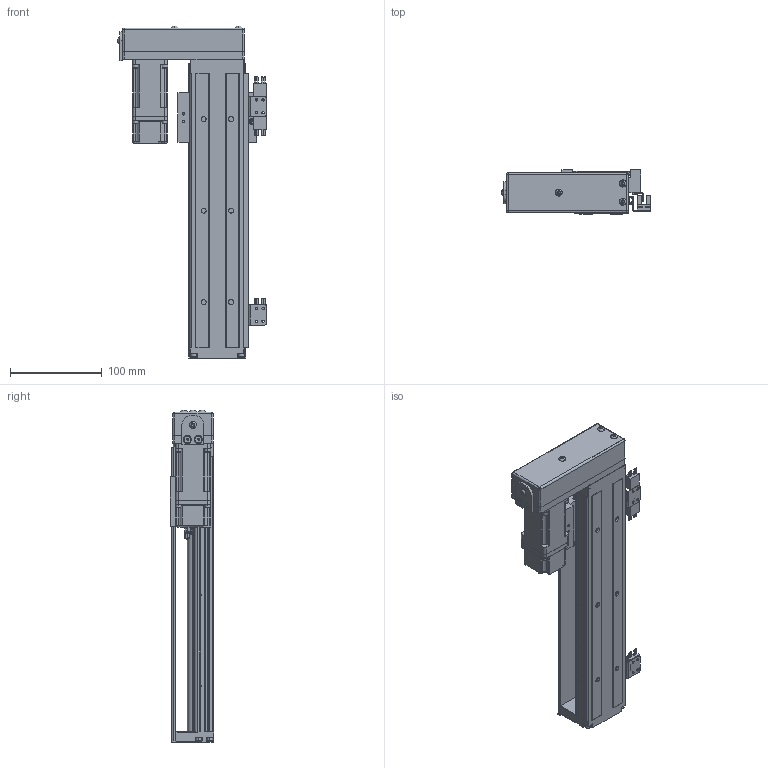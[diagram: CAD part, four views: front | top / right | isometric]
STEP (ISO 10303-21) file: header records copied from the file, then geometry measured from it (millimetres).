
FILE_DESCRIPTION (( 'STEP AP214' ), '1' );
FILE_NAME ('SFKK60-300A1-HR0C.STEP', '2023-02-17T02:18:39', ( '微软用户' ), ( '微软中国' ), 'SwSTEP 2.0', 'SolidWorks 2018', '' );
FILE_SCHEMA (( 'AUTOMOTIVE_DESIGN' ));
Length unit declared in the file: millimetre
Products named in the file (12): SFKK60-300A1-HR0C; SFKK-60-CU_300; hexagon socket countersunk head screws gb_GB_FASTENER_SCREWS_HSCHS M3X8-N; 开关固定座：KK-674S2-F; SFKK60-H0-P10侂狟100W耜蚾; SFKK60-LR 憤癹寢耋_300; 极限轨道与开关固定座组合_300; SFKK60-H0_300; 带盖挡光片：KK-60-S2-D1; SFKK60-A1-C; SX674嫖萇羲壽; 蚐郲
Assembly tree (17 placements, depth 3):
  SFKK60-300A1-HR0C
    SFKK60-H0_300
    SFKK60-A1-C
    蚐郲
    极限轨道与开关固定座组合_300
      SFKK60-LR 憤癹寢耋_300
      开关固定座：KK-674S2-F  x2
    SX674嫖萇羲壽  x3
    带盖挡光片：KK-60-S2-D1
    SFKK-60-CU_300
    hexagon socket countersunk head screws gb_GB_FASTENER_SCREWS_HSCHS M3X8-N  x4
    SFKK60-H0-P10侂狟100W耜蚾
Bounding box: 162.2 x 48 x 362.7 mm (x, y, z)
Volume: 469394.3 mm3; surface area: 292028.2 mm2
Topology: 40 solids, 69 shells, 4237 faces, 10601 edges, 6560 vertices
Faces by surface type: cylinder 1640, plane 1494, cone 895, torus 91, bspline 91, sphere 26
Entity records: 166524 total; most frequent: CARTESIAN_POINT 29637, DIRECTION 21101, ORIENTED_EDGE 19902, EDGE_CURVE 10013, AXIS2_PLACEMENT_3D 7829, VERTEX_POINT 6263, LINE 5443, VECTOR 5443
